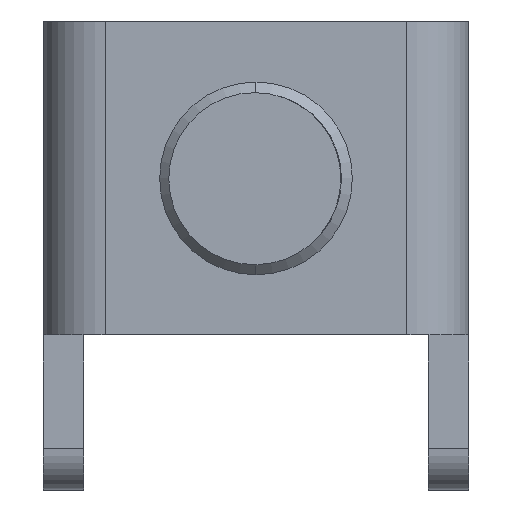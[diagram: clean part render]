
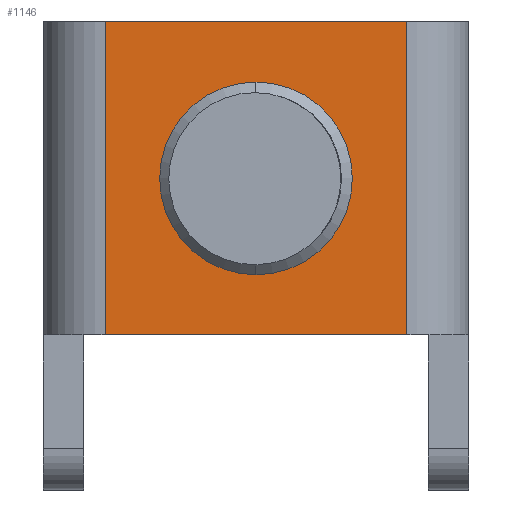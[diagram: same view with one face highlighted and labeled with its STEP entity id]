
A CAD part, front view. The second image highlights one B-rep face of the part: STEP entity #1146.
In plain terms, the highlighted planar face has unit normal (0, -1, 0).
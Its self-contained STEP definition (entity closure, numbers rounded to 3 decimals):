
#21 = EDGE_CURVE ( 'NONE', #2237, #2589, #4409, .T. ) ;
#145 = DIRECTION ( 'NONE',  ( 0., 0., -1. ) ) ;
#172 = LINE ( 'NONE', #547, #237 ) ;
#229 = AXIS2_PLACEMENT_3D ( 'NONE', #891, #352, #4289 ) ;
#237 = VECTOR ( 'NONE', #145, 1000. ) ;
#333 = EDGE_LOOP ( 'NONE', ( #5017, #1560, #481, #4705 ) ) ;
#352 = DIRECTION ( 'NONE',  ( 0., 1., 0. ) ) ;
#481 = ORIENTED_EDGE ( 'NONE', *, *, #1724, .T. ) ;
#547 = CARTESIAN_POINT ( 'NONE',  ( 5.563, 0., 17.272 ) ) ;
#659 = EDGE_CURVE ( 'NONE', #2689, #2595, #172, .T. ) ;
#891 = CARTESIAN_POINT ( 'NONE',  ( 0., 0., 11.5 ) ) ;
#1146 = ADVANCED_FACE ( 'NONE', ( #3287, #4206 ), #1352, .T. ) ;
#1331 = CARTESIAN_POINT ( 'NONE',  ( -5.563, 0., 17.272 ) ) ;
#1343 = DIRECTION ( 'NONE',  ( 0., 0., -1. ) ) ;
#1344 = CIRCLE ( 'NONE', #2932, 2.381 ) ;
#1352 = PLANE ( 'NONE',  #3871 ) ;
#1384 = VECTOR ( 'NONE', #1343, 1000. ) ;
#1412 = DIRECTION ( 'NONE',  ( 1., 0., 0. ) ) ;
#1417 = DIRECTION ( 'NONE',  ( 0., 0., -1. ) ) ;
#1526 = VECTOR ( 'NONE', #4840, 1000. ) ;
#1560 = ORIENTED_EDGE ( 'NONE', *, *, #3118, .T. ) ;
#1619 = CARTESIAN_POINT ( 'NONE',  ( -5.563, 0., 5.728 ) ) ;
#1724 = EDGE_CURVE ( 'NONE', #2984, #2595, #5681, .T. ) ;
#2130 = LINE ( 'NONE', #2723, #4092 ) ;
#2237 = VERTEX_POINT ( 'NONE', #3529 ) ;
#2333 = CARTESIAN_POINT ( 'NONE',  ( 5.563, 0., 17.272 ) ) ;
#2535 = EDGE_CURVE ( 'NONE', #5717, #2689, #2130, .T. ) ;
#2560 = CARTESIAN_POINT ( 'NONE',  ( 5.563, 0., 5.728 ) ) ;
#2589 = VERTEX_POINT ( 'NONE', #2599 ) ;
#2595 = VERTEX_POINT ( 'NONE', #2560 ) ;
#2599 = CARTESIAN_POINT ( 'NONE',  ( 0., 0., 9.119 ) ) ;
#2689 = VERTEX_POINT ( 'NONE', #2333 ) ;
#2691 = DIRECTION ( 'NONE',  ( 1., 0., 0. ) ) ;
#2723 = CARTESIAN_POINT ( 'NONE',  ( 6.35, 0., 17.272 ) ) ;
#2735 = CARTESIAN_POINT ( 'NONE',  ( -5.563, 0., 17.272 ) ) ;
#2744 = DIRECTION ( 'NONE',  ( 0., -1., 0. ) ) ;
#2932 = AXIS2_PLACEMENT_3D ( 'NONE', #2980, #4513, #1417 ) ;
#2980 = CARTESIAN_POINT ( 'NONE',  ( 0., 0., 11.5 ) ) ;
#2984 = VERTEX_POINT ( 'NONE', #1619 ) ;
#3118 = EDGE_CURVE ( 'NONE', #5717, #2984, #4604, .T. ) ;
#3287 = FACE_OUTER_BOUND ( 'NONE', #333, .T. ) ;
#3384 = EDGE_LOOP ( 'NONE', ( #5385, #3834 ) ) ;
#3529 = CARTESIAN_POINT ( 'NONE',  ( 0., 0., 13.881 ) ) ;
#3834 = ORIENTED_EDGE ( 'NONE', *, *, #21, .T. ) ;
#3871 = AXIS2_PLACEMENT_3D ( 'NONE', #2735, #2744, #1412 ) ;
#4092 = VECTOR ( 'NONE', #2691, 1000. ) ;
#4206 = FACE_BOUND ( 'NONE', #3384, .T. ) ;
#4289 = DIRECTION ( 'NONE',  ( 0., 0., -1. ) ) ;
#4409 = CIRCLE ( 'NONE', #229, 2.381 ) ;
#4513 = DIRECTION ( 'NONE',  ( 0., 1., 0. ) ) ;
#4604 = LINE ( 'NONE', #1331, #1384 ) ;
#4705 = ORIENTED_EDGE ( 'NONE', *, *, #659, .F. ) ;
#4835 = CARTESIAN_POINT ( 'NONE',  ( -7.849, 0., 5.728 ) ) ;
#4840 = DIRECTION ( 'NONE',  ( 1., 0., 0. ) ) ;
#5017 = ORIENTED_EDGE ( 'NONE', *, *, #2535, .F. ) ;
#5282 = CARTESIAN_POINT ( 'NONE',  ( -5.563, 0., 17.272 ) ) ;
#5385 = ORIENTED_EDGE ( 'NONE', *, *, #5699, .T. ) ;
#5681 = LINE ( 'NONE', #4835, #1526 ) ;
#5699 = EDGE_CURVE ( 'NONE', #2589, #2237, #1344, .T. ) ;
#5717 = VERTEX_POINT ( 'NONE', #5282 ) ;
